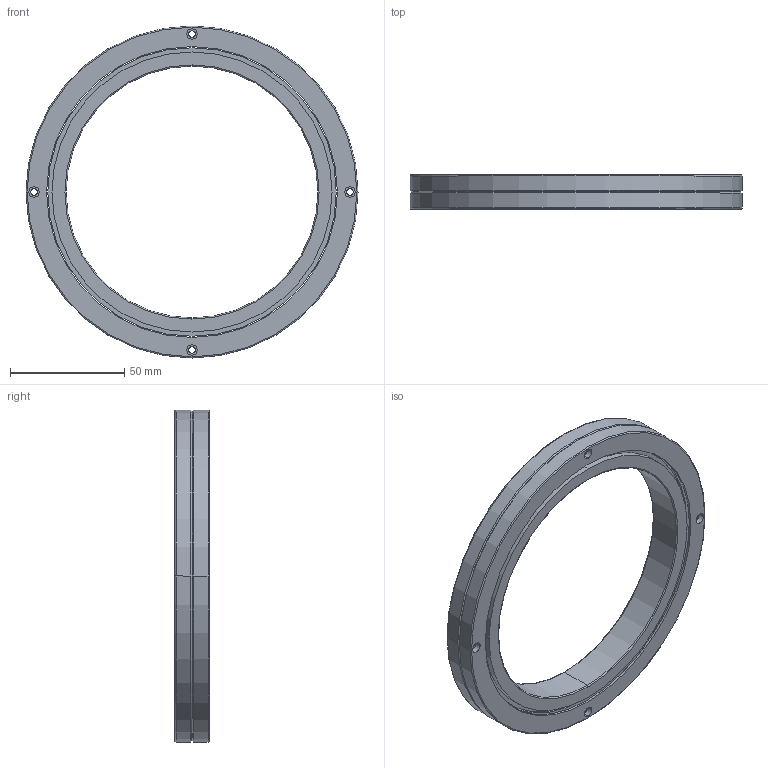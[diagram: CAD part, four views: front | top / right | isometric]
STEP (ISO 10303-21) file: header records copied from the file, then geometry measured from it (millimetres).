
FILE_DESCRIPTION((''),'2;1');
FILE_NAME('RB11015','2015-01-09T',('Administrator'),(''),'PRO/ENGINEER BY PARAMETRIC TECHNOLOGY CORPORATION, 2010180','PRO/ENGINEER BY PARAMETRIC TECHNOLOGY CORPORATION, 2010180','');
FILE_SCHEMA(('AUTOMOTIVE_DESIGN_CC2 { 1 2 10303 214 -1 1 5 2 }'));
Length unit declared in the file: millimetre
Products named in the file (1): RB11015
Bounding box: 145 x 15 x 145 mm (x, y, z)
Volume: 87776.6 mm3; surface area: 43290.1 mm2
Topology: 2 solids, 2 shells, 88 faces, 184 edges, 114 vertices
Faces by surface type: cylinder 50, plane 18, cone 12, torus 8
Entity records: 2497 total; most frequent: DIRECTION 482, CARTESIAN_POINT 386, ORIENTED_EDGE 368, AXIS2_PLACEMENT_3D 210, EDGE_CURVE 184, CIRCLE 122, VERTEX_POINT 114, EDGE_LOOP 114
